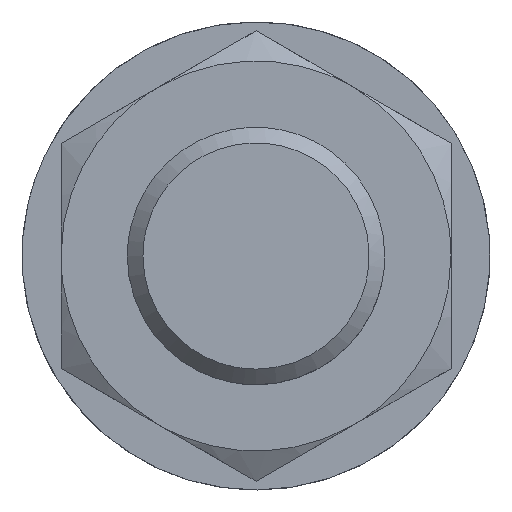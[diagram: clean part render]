
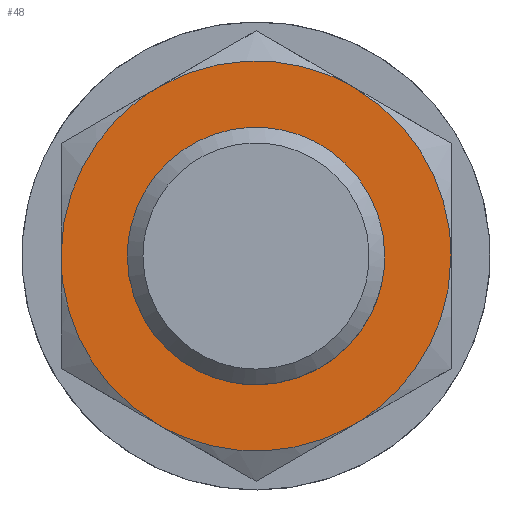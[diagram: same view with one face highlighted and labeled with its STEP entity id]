
A CAD part, left-side view. The second image highlights one B-rep face of the part: STEP entity #48.
In plain terms, the highlighted planar face has unit normal (-1, 0, 0).
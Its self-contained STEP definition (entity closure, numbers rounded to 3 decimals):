
#39=FACE_BOUND('',#135,.T.);
#48=ADVANCED_FACE('',(#90,#39),#655,.T.);
#90=FACE_OUTER_BOUND('',#134,.T.);
#134=EDGE_LOOP('',(#198,#199,#200,#201,#202,#203));
#135=EDGE_LOOP('',(#204,#205));
#198=ORIENTED_EDGE('',*,*,#399,.F.);
#199=ORIENTED_EDGE('',*,*,#401,.F.);
#200=ORIENTED_EDGE('',*,*,#402,.F.);
#201=ORIENTED_EDGE('',*,*,#400,.F.);
#202=ORIENTED_EDGE('',*,*,#398,.F.);
#203=ORIENTED_EDGE('',*,*,#397,.F.);
#204=ORIENTED_EDGE('',*,*,#387,.F.);
#205=ORIENTED_EDGE('',*,*,#385,.F.);
#385=EDGE_CURVE('',#600,#590,#510,.T.);
#387=EDGE_CURVE('',#590,#600,#511,.T.);
#397=EDGE_CURVE('',#594,#595,#519,.T.);
#398=EDGE_CURVE('',#595,#599,#520,.T.);
#399=EDGE_CURVE('',#596,#594,#521,.T.);
#400=EDGE_CURVE('',#599,#598,#522,.T.);
#401=EDGE_CURVE('',#597,#596,#523,.T.);
#402=EDGE_CURVE('',#598,#597,#524,.T.);
#510=(
BOUNDED_CURVE()
B_SPLINE_CURVE(2,(#1158,#1159,#1160,#1161,#1162),.UNSPECIFIED.,.F.,.F.)
B_SPLINE_CURVE_WITH_KNOTS((3,2,3),(51.836,77.754,103.672),
 .UNSPECIFIED.)
CURVE()
GEOMETRIC_REPRESENTATION_ITEM()
RATIONAL_B_SPLINE_CURVE((1.,0.707,1.,0.707,1.))
REPRESENTATION_ITEM('')
);
#511=(
BOUNDED_CURVE()
B_SPLINE_CURVE(2,(#1165,#1166,#1167,#1168,#1169),.UNSPECIFIED.,.F.,.F.)
B_SPLINE_CURVE_WITH_KNOTS((3,2,3),(0.,25.918,51.836),
 .UNSPECIFIED.)
CURVE()
GEOMETRIC_REPRESENTATION_ITEM()
RATIONAL_B_SPLINE_CURVE((1.,0.707,1.,0.707,1.))
REPRESENTATION_ITEM('')
);
#519=(
BOUNDED_CURVE()
B_SPLINE_CURVE(2,(#1207,#1208,#1209),.UNSPECIFIED.,.F.,.F.)
B_SPLINE_CURVE_WITH_KNOTS((3,3),(0.,26.18),.UNSPECIFIED.)
CURVE()
GEOMETRIC_REPRESENTATION_ITEM()
RATIONAL_B_SPLINE_CURVE((1.,0.866,1.))
REPRESENTATION_ITEM('')
);
#520=(
BOUNDED_CURVE()
B_SPLINE_CURVE(2,(#1210,#1211,#1212),.UNSPECIFIED.,.F.,.F.)
B_SPLINE_CURVE_WITH_KNOTS((3,3),(0.,26.18),.UNSPECIFIED.)
CURVE()
GEOMETRIC_REPRESENTATION_ITEM()
RATIONAL_B_SPLINE_CURVE((1.,0.866,1.))
REPRESENTATION_ITEM('')
);
#521=(
BOUNDED_CURVE()
B_SPLINE_CURVE(2,(#1213,#1214,#1215),.UNSPECIFIED.,.F.,.F.)
B_SPLINE_CURVE_WITH_KNOTS((3,3),(0.,26.18),.UNSPECIFIED.)
CURVE()
GEOMETRIC_REPRESENTATION_ITEM()
RATIONAL_B_SPLINE_CURVE((1.,0.866,1.))
REPRESENTATION_ITEM('')
);
#522=(
BOUNDED_CURVE()
B_SPLINE_CURVE(2,(#1216,#1217,#1218),.UNSPECIFIED.,.F.,.F.)
B_SPLINE_CURVE_WITH_KNOTS((3,3),(0.,26.18),.UNSPECIFIED.)
CURVE()
GEOMETRIC_REPRESENTATION_ITEM()
RATIONAL_B_SPLINE_CURVE((1.,0.866,1.))
REPRESENTATION_ITEM('')
);
#523=(
BOUNDED_CURVE()
B_SPLINE_CURVE(2,(#1219,#1220,#1221),.UNSPECIFIED.,.F.,.F.)
B_SPLINE_CURVE_WITH_KNOTS((3,3),(0.,26.18),.UNSPECIFIED.)
CURVE()
GEOMETRIC_REPRESENTATION_ITEM()
RATIONAL_B_SPLINE_CURVE((1.,0.866,1.))
REPRESENTATION_ITEM('')
);
#524=(
BOUNDED_CURVE()
B_SPLINE_CURVE(2,(#1222,#1223,#1224),.UNSPECIFIED.,.F.,.F.)
B_SPLINE_CURVE_WITH_KNOTS((3,3),(0.,26.18),.UNSPECIFIED.)
CURVE()
GEOMETRIC_REPRESENTATION_ITEM()
RATIONAL_B_SPLINE_CURVE((1.,0.866,1.))
REPRESENTATION_ITEM('')
);
#590=VERTEX_POINT('',#1126);
#594=VERTEX_POINT('',#1130);
#595=VERTEX_POINT('',#1131);
#596=VERTEX_POINT('',#1132);
#597=VERTEX_POINT('',#1133);
#598=VERTEX_POINT('',#1134);
#599=VERTEX_POINT('',#1135);
#600=VERTEX_POINT('',#1136);
#655=PLANE('',#769);
#769=AXIS2_PLACEMENT_3D('',#883,#795,$);
#795=DIRECTION('',(-1.,0.,0.));
#883=CARTESIAN_POINT('',(48.,-30.12,-34.761));
#1126=CARTESIAN_POINT('',(48.,16.5,0.));
#1130=CARTESIAN_POINT('',(48.,-12.5,-21.651));
#1131=CARTESIAN_POINT('',(48.,12.5,-21.651));
#1132=CARTESIAN_POINT('',(48.,-25.,0.));
#1133=CARTESIAN_POINT('',(48.,-12.5,21.651));
#1134=CARTESIAN_POINT('',(48.,12.5,21.651));
#1135=CARTESIAN_POINT('',(48.,25.,0.));
#1136=CARTESIAN_POINT('',(48.,-16.5,0.));
#1158=CARTESIAN_POINT('',(48.,-16.5,0.));
#1159=CARTESIAN_POINT('',(48.,-16.5,16.5));
#1160=CARTESIAN_POINT('',(48.,0.,16.5));
#1161=CARTESIAN_POINT('',(48.,16.5,16.5));
#1162=CARTESIAN_POINT('',(48.,16.5,0.));
#1165=CARTESIAN_POINT('',(48.,16.5,0.));
#1166=CARTESIAN_POINT('',(48.,16.5,-16.5));
#1167=CARTESIAN_POINT('',(48.,0.,-16.5));
#1168=CARTESIAN_POINT('',(48.,-16.5,-16.5));
#1169=CARTESIAN_POINT('',(48.,-16.5,0.));
#1207=CARTESIAN_POINT('',(48.,-12.5,-21.651));
#1208=CARTESIAN_POINT('',(48.,0.,-28.868));
#1209=CARTESIAN_POINT('',(48.,12.5,-21.651));
#1210=CARTESIAN_POINT('',(48.,12.5,-21.651));
#1211=CARTESIAN_POINT('',(48.,25.,-14.434));
#1212=CARTESIAN_POINT('',(48.,25.,0.));
#1213=CARTESIAN_POINT('',(48.,-25.,0.));
#1214=CARTESIAN_POINT('',(48.,-25.,-14.434));
#1215=CARTESIAN_POINT('',(48.,-12.5,-21.651));
#1216=CARTESIAN_POINT('',(48.,25.,0.));
#1217=CARTESIAN_POINT('',(48.,25.,14.434));
#1218=CARTESIAN_POINT('',(48.,12.5,21.651));
#1219=CARTESIAN_POINT('',(48.,-12.5,21.651));
#1220=CARTESIAN_POINT('',(48.,-25.,14.434));
#1221=CARTESIAN_POINT('',(48.,-25.,0.));
#1222=CARTESIAN_POINT('',(48.,12.5,21.651));
#1223=CARTESIAN_POINT('',(48.,0.,28.868));
#1224=CARTESIAN_POINT('',(48.,-12.5,21.651));
